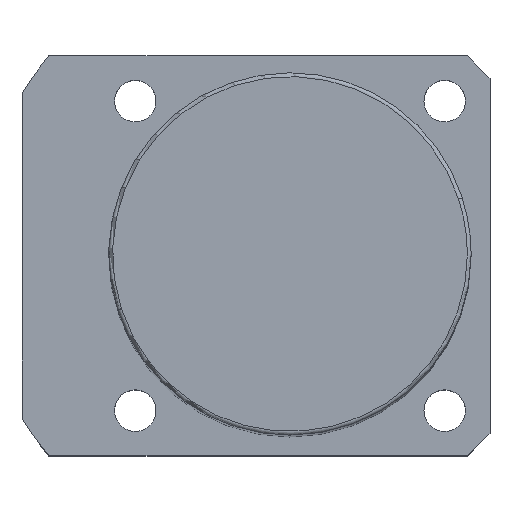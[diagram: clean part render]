
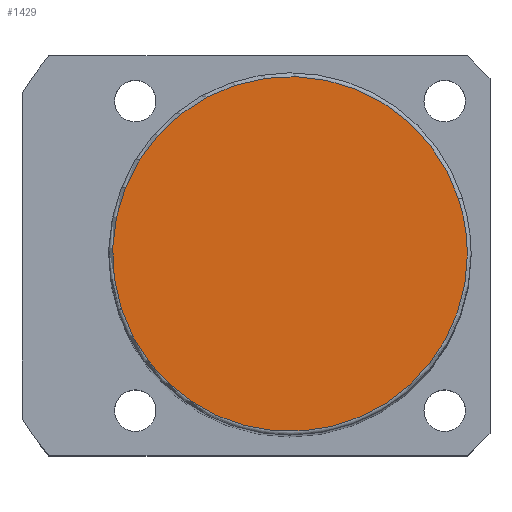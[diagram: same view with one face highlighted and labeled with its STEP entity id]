
A CAD part, top view. The second image highlights one B-rep face of the part: STEP entity #1429.
In plain terms, the highlighted planar face has unit normal (0, 0, 1).
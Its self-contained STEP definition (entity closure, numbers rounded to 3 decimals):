
#1362=CARTESIAN_POINT('',(22.35,7.262,154.0));
#1363=VERTEX_POINT('',#1362);
#1381=CARTESIAN_POINT('',(-22.35,-7.262,154.0));
#1382=VERTEX_POINT('',#1381);
#1390=CARTESIAN_POINT('',(0.0,0.0,154.0));
#1391=DIRECTION('',(0.0,0.0,1.0));
#1392=DIRECTION('',(1.0,0.0,0.0));
#1393=AXIS2_PLACEMENT_3D('',#1390,#1391,#1392);
#1394=CIRCLE('',#1393,23.5);
#1395=EDGE_CURVE('no 1889',#1363,#1382,#1394,.T.);
#1405=CARTESIAN_POINT('',(23.5,0.0,154.0));
#1406=VERTEX_POINT('',#1405);
#1407=CARTESIAN_POINT('',(0.0,0.0,154.0));
#1408=DIRECTION('',(0.0,0.0,1.0));
#1409=DIRECTION('',(1.0,0.0,0.0));
#1410=AXIS2_PLACEMENT_3D('',#1407,#1408,#1409);
#1411=CIRCLE('',#1410,23.5);
#1412=EDGE_CURVE('no 1898',#1406,#1363,#1411,.T.);
#1413=ORIENTED_EDGE('',*,*,#1412,.T.);
#1414=ORIENTED_EDGE('',*,*,#1395,.T.);
#1415=CARTESIAN_POINT('',(0.0,0.0,154.0));
#1416=DIRECTION('',(0.0,0.0,1.0));
#1417=DIRECTION('',(1.0,0.0,0.0));
#1418=AXIS2_PLACEMENT_3D('',#1415,#1416,#1417);
#1419=CIRCLE('',#1418,23.5);
#1420=EDGE_CURVE('no 1904',#1382,#1406,#1419,.T.);
#1421=ORIENTED_EDGE('',*,*,#1420,.T.);
#1422=EDGE_LOOP('',(#1413,#1414,#1421));
#1423=FACE_OUTER_BOUND('',#1422,.T.);
#1424=CARTESIAN_POINT('',(0.0,0.0,154.0));
#1425=DIRECTION('',(0.0,0.0,1.0));
#1426=DIRECTION('',(1.0,0.0,0.0));
#1427=AXIS2_PLACEMENT_3D('',#1424,#1425,#1426);
#1428=PLANE('',#1427);
#1429=ADVANCED_FACE('no 1891',(#1423),#1428,.T.);
